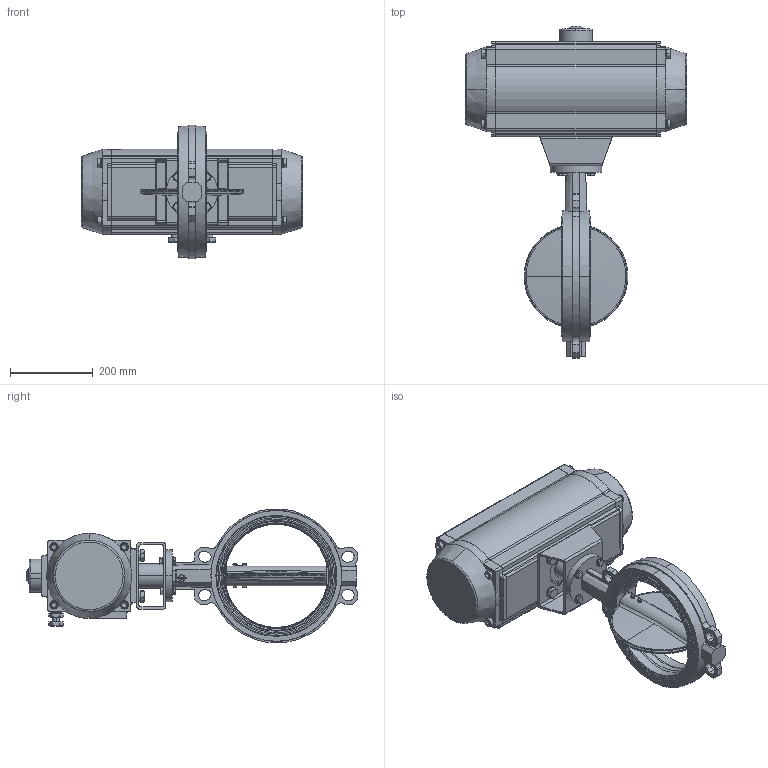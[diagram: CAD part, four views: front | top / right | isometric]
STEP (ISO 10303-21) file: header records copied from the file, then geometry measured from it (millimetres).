
FILE_DESCRIPTION (( 'STEP AP214' ), '1' );
FILE_NAME ('VPG444X-N07XX0250.step', '2022-06-07T06:35:10', ( '' ), ( '' ), 'SwSTEP 2.0', 'SolidWorks 2020', '' );
FILE_SCHEMA (( 'AUTOMOTIVE_DESIGN' ));
Length unit declared in the file: millimetre
Products named in the file (1): VPG444X-N07XX0250
Bounding box: 534 x 801.52 x 323.3 mm (x, y, z)
Surface area: 1092098 mm2 (no closed solid volume)
Topology: 0 solids, 104 shells, 784 faces, 4492 edges, 3803 vertices
Faces by surface type: plane 359, cylinder 231, cone 112, bspline 82
Entity records: 71317 total; most frequent: CARTESIAN_POINT 30538, ORIENTED_EDGE 6050, DIRECTION 5574, EDGE_CURVE 4492, VERTEX_POINT 3803, LINE 2286, VECTOR 2286, AXIS2_PLACEMENT_3D 1644
